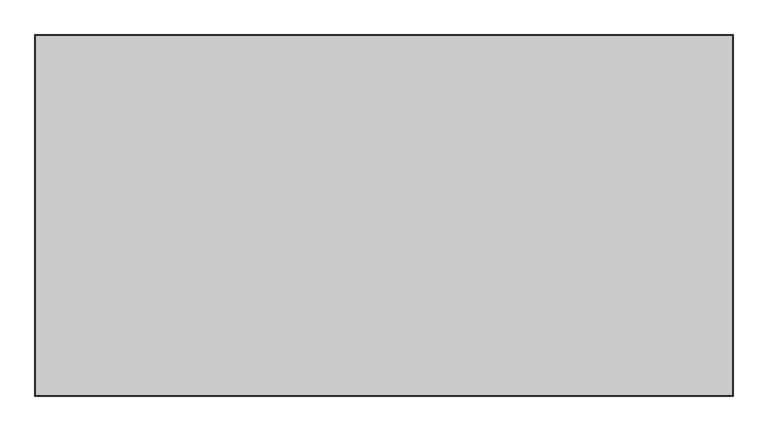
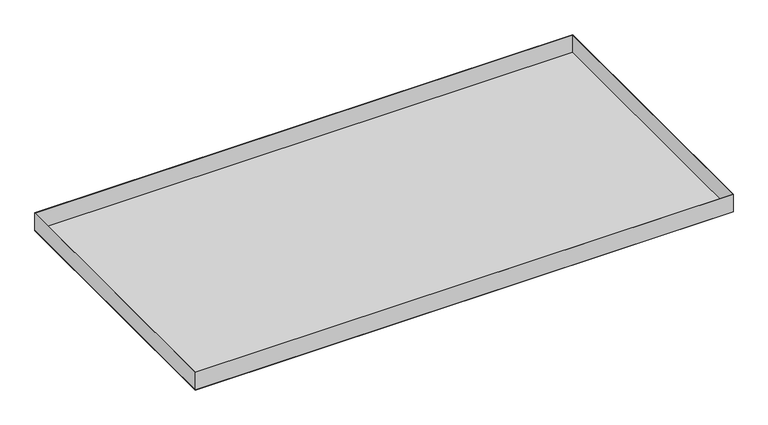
"""IFC4 building model written with IfcOpenShell, lengths in millimetres: proxy geometry, durlum_S-OM-40-RHOMBOS : durlum_S-OM-40-RHOMBOS_panel."""

from ifc_helpers import new_model, si_unit, frame, origin, origin_with_axes, place, context, project, spatial, polyline, outline, extrude, source, transform, mapped, element, save


def generic_models_4c3bed80(model_context):
    return source(origin(), model_context, "Body", "SweptSolid", [
        extrude(outline(polyline([(579.0, 299.5), (579.0, -299.5), (-579.0, -299.5), (-579.0, 299.5), (579.0, 299.5)]), holes=[polyline([(578.4, 298.9), (-578.4, 298.9), (-578.4, -298.9), (578.4, -298.9), (578.4, 298.9)])]), frame((0.0, 0.0, 0.6), z_axis=(0.0, 0.0, 1.0), x_axis=(1.0, 0.0, 0.0)), (0.0, 0.0, 1.0), 39.4),
        extrude(outline(polyline([(578.0, 298.5), (578.0, -298.5), (-578.0, -298.5), (-578.0, 298.5), (578.0, 298.5)])), frame((0.0, 0.0, 0.6), z_axis=(0.0, 0.0, 1.0), x_axis=(1.0, 0.0, 0.0)), (0.0, 0.0, 1.0), 0.6),
        extrude(outline(polyline([(579.0, 299.5), (579.0, -299.5), (-579.0, -299.5), (-579.0, 299.5), (579.0, 299.5)]), holes=[polyline([(578.0, 298.5), (-578.0, 298.5), (-578.0, -298.5), (578.0, -298.5), (578.0, 298.5)])]), origin_with_axes(), (0.0, 0.0, 1.0), 0.6),
        extrude(outline(polyline([(578.0, 298.5), (578.0, -298.5), (-578.0, -298.5), (-578.0, 298.5), (578.0, 298.5)])), origin_with_axes(), (0.0, 0.0, 1.0), 0.6),
    ])


if __name__ == "__main__":
    model = new_model("IFC4")
    model_context = context("Model", 3, world=origin())
    ifc_project = project(units=[si_unit("LENGTHUNIT", "METRE", prefix="MILLI")], contexts=[model_context])
    site = spatial("IfcSite", under=ifc_project)
    building = spatial("IfcBuilding", under=site)
    placement = place(None, origin())
    generic_models_shape = generic_models_4c3bed80(model_context)
    element("IfcBuildingElementProxy", 1, Name="durlum_S-OM-40-RHOMBOS : durlum_S-OM-40-RHOMBOS_panel", ObjectType="durlum_S-OM-40-RHOMBOS : durlum_S-OM-40-RHOMBOS_panel", at=placement, inside=building, context=model_context, shape_type="MappedRepresentation", body=[
        mapped(generic_models_shape, transform((0.0, 0.0, 0.0), x_axis=(1.0, 0.0, 0.0), y_axis=(0.0, 1.0, 0.0), z_axis=(0.0, 0.0, 1.0))),
    ])
    save(model, "model.ifc")
